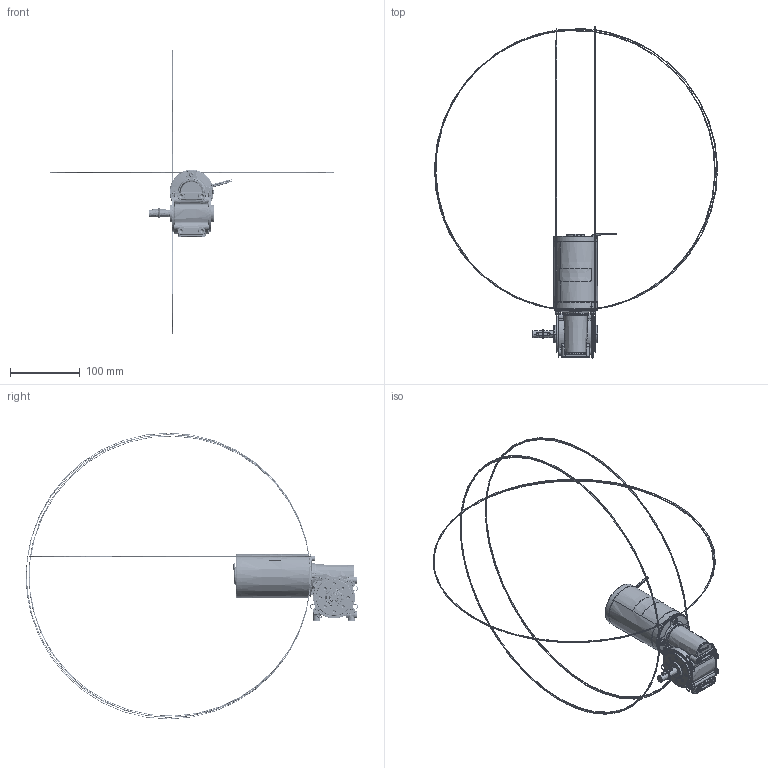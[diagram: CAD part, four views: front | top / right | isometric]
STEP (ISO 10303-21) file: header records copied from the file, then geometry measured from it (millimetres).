
FILE_DESCRIPTION((''),'2;1');
FILE_NAME('80831000','2014-03-25T',('ALEFCT1'),('CROUZET-AUTOMATISMES'),'PRO/ENGINEER BY PARAMETRIC TECHNOLOGY CORPORATION, 2010280','PRO/ENGINEER BY PARAMETRIC TECHNOLOGY CORPORATION, 2010280','');
FILE_SCHEMA(('CONFIG_CONTROL_DESIGN'));
Products named in the file (1): 80831000
Bounding box: 406.14 x 476.34 x 411.3 mm (x, y, z)
Surface area: 174525.5 mm2 (no closed solid volume)
Topology: 0 solids, 0 shells, 3425 faces, 18725 edges, 18316 vertices
Faces by surface type: bspline 2669, torus 664, sphere 92
Entity records: 296611 total; most frequent: CARTESIAN_POINT 136460, DIRECTION 26260, TRIMMED_CURVE 20930, DEFINITIONAL_REPRESENTATION 18014, PCURVE 18014, COMPOSITE_CURVE_SEGMENT 18014, VECTOR 17110, LINE 17110
